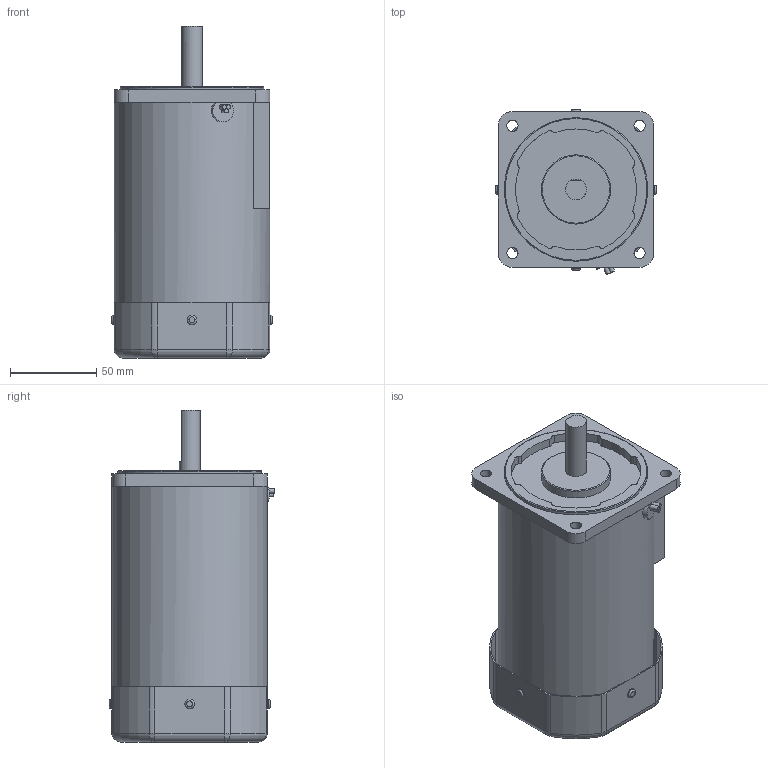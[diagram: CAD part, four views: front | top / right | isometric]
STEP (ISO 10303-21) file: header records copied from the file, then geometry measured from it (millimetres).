
FILE_DESCRIPTION((''),'2;1');
FILE_NAME('E:\2공장-도면\3D\표준형 3D(민규)\step file\K9IS200Fㅁ.stp','2014-11-12T09:18:55',('AHN'),(''),'Autodesk Inventor 2012','Autodesk Inventor 2012','');
FILE_SCHEMA(('CONFIG_CONTROL_DESIGN'));
Length unit declared in the file: millimetre
Products named in the file (1): K9IS180Fㅁ
Bounding box: 93 x 95.71 x 192 mm (x, y, z)
Volume: 918365.7 mm3; surface area: 89235.2 mm2
Topology: 1 solids, 7 shells, 266 faces, 627 edges, 375 vertices
Faces by surface type: cylinder 131, plane 81, torus 46, bspline 8
Full cylindrical faces by diameter (mm): 5.5 x4, 6.5 x4, 8 x4, 12 x1, 40 x1, 83 x1, 90 x1
Entity records: 8398 total; most frequent: CARTESIAN_POINT 2277, DIRECTION 1323, ORIENTED_EDGE 1202, EDGE_CURVE 601, AXIS2_PLACEMENT_3D 528, VERTEX_POINT 371, EDGE_LOOP 333, CIRCLE 269
